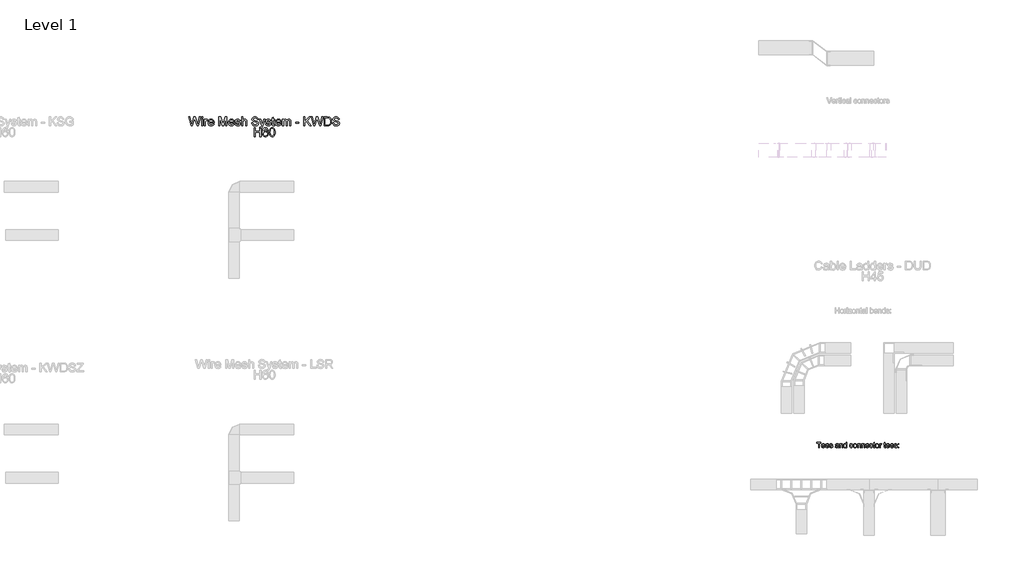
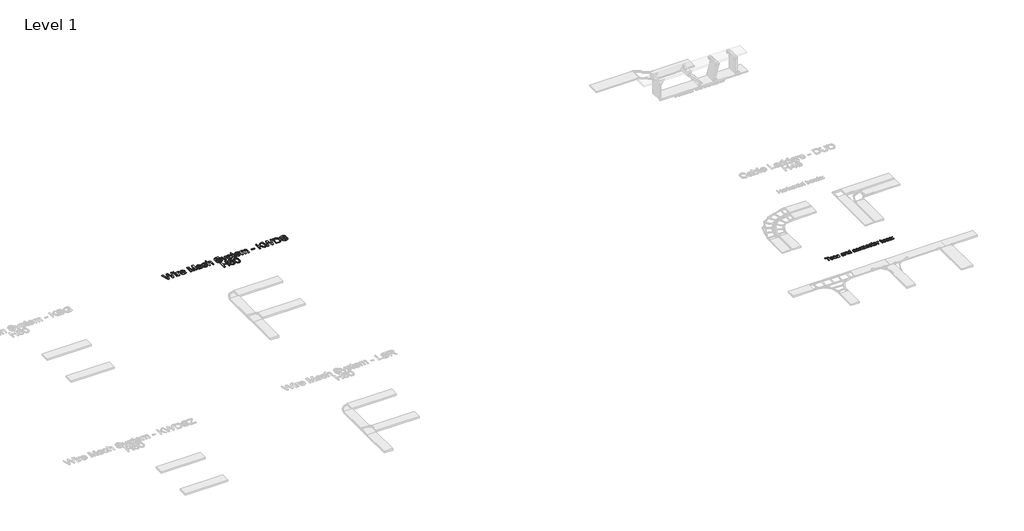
# One storey, part 51 of 106: 2 proxies.
"""IFC4 building model written with IfcOpenShell, lengths in millimetres."""

from ifc_helpers import new_model, si_unit, origin, origin_with_axes, place, context, project, spatial, polyline, outline, extrude, element, save

model = new_model("IFC4")

# Units and contexts
model_context = context("Model", 3, world=origin())
ifc_project = project(units=[si_unit("LENGTHUNIT", "METRE", prefix="MILLI")], contexts=[model_context])

# Site, building, storey
site = spatial("IfcSite", under=ifc_project)
building = spatial("IfcBuilding", under=site)
storey = spatial("IfcBuildingStorey", under=building, Name="Level 1", Elevation=0.0)

# Proxies
placement = place(None, origin())
element("IfcBuildingElementProxy", 1, Name="150mm Arial 2", ObjectType="150mm Arial 2", at=placement, inside=storey, context=model_context, shape_type="SweptSolid", body=[
    extrude(outline(polyline([(28893.3276619, 34847.8476348), (28893.3276619, 34979.6965419), (28843.8843218, 34979.6965419), (28843.8843218, 34998.5321), (28961.6065602, 34998.5321), (28961.6065602, 34979.6965419), (28912.1632201, 34979.6965419), (28912.1632201, 34847.8476348), (28893.3276619, 34847.8476348)])), origin_with_axes(), (0.0, 0.0, 1.0), 15.0),
    extrude(outline(polyline([(29057.9180666, 34880.8098615), (29076.3857427, 34878.4554168), (29069.7316771, 34864.5402803), (29059.1136831, 34854.1384169), (29044.7708838, 34847.6544967), (29026.9424026, 34845.49319), (29004.8418917, 34849.2225937), (28987.8365465, 34860.4108049), (28976.9932247, 34878.3312566), (28973.3787841, 34902.2573819), (28977.0300129, 34926.988249), (28987.9836993, 34945.4835163), (29004.7591183, 34957.0166168), (29025.8755448, 34960.8609837), (29046.3343822, 34957.0258139), (29062.6821384, 34945.5203045), (29073.4013, 34927.0618254), (29076.9743539, 34902.3677465), (29076.8639893, 34897.2909749), (28992.2143422, 34897.2909749), (28995.4746964, 34883.1918975), (29003.048467, 34872.8268223), (29013.9791608, 34866.4532667), (29027.3102846, 34864.3287482), (29045.7779607, 34868.2650855), (29057.9180666, 34880.8098615)]), holes=[polyline([(28992.2143422, 34916.1265331), (29058.1387958, 34916.1265331), (29055.5912129, 34926.0777411), (29050.5972149, 34933.1962577), (29039.6159373, 34939.8181336), (29025.8019684, 34942.0254255), (29013.105441, 34940.2641905), (29002.6070086, 34934.9804853), (28995.3091495, 34926.7445272), (28992.2143422, 34916.1265331)])]), origin_with_axes(), (0.0, 0.0, 1.0), 15.0),
    extrude(outline(polyline([(29173.2858603, 34880.8098615), (29191.7535364, 34878.4554168), (29185.0994708, 34864.5402803), (29174.4814767, 34854.1384169), (29160.1386775, 34847.6544967), (29142.3101963, 34845.49319), (29120.2096854, 34849.2225937), (29103.2043402, 34860.4108049), (29092.3610184, 34878.3312566), (29088.7465778, 34902.2573819), (29092.3978066, 34926.988249), (29103.351493, 34945.4835163), (29120.126912, 34957.0166168), (29141.2433385, 34960.8609837), (29161.7021759, 34957.0258139), (29178.0499321, 34945.5203045), (29188.7690937, 34927.0618254), (29192.3421476, 34902.3677465), (29192.231783, 34897.2909749), (29107.5821359, 34897.2909749), (29110.8424901, 34883.1918975), (29118.4162607, 34872.8268223), (29129.3469545, 34866.4532667), (29142.6780783, 34864.3287482), (29161.1457544, 34868.2650855), (29173.2858603, 34880.8098615)]), holes=[polyline([(29107.5821359, 34916.1265331), (29173.5065895, 34916.1265331), (29170.9590066, 34926.0777411), (29165.9650086, 34933.1962577), (29154.983731, 34939.8181336), (29141.1697621, 34942.0254255), (29128.4732347, 34940.2641905), (29117.9748023, 34934.9804853), (29110.6769432, 34926.7445272), (29107.5821359, 34916.1265331)])]), origin_with_axes(), (0.0, 0.0, 1.0), 15.0),
    extrude(outline(polyline([(29204.1143715, 34880.8098615), (29222.9499296, 34883.1643063), (29225.9205767, 34875.1076906), (29231.6687329, 34869.1847905), (29251.6447252, 34864.3287482), (29270.8481654, 34868.7801203), (29277.1021593, 34879.227969), (29275.5294638, 34884.028829), (29270.8113772, 34887.6892549), (29251.423996, 34893.060332), (29223.0602942, 34902.275776), (29210.6810651, 34913.0363243), (29206.4688162, 34928.2298507), (29209.8533306, 34942.2645488), (29219.0871687, 34952.988309), (29231.0617276, 34958.5617212), (29247.2669295, 34960.8609837), (29270.1859778, 34957.1637696), (29284.7541048, 34947.1573794), (29291.2288279, 34930.2532017), (29272.3932698, 34927.8987569), (29265.3115413, 34938.2914233), (29248.7384575, 34942.0254255), (29230.7122397, 34938.4569702), (29225.3043744, 34930.1428371), (29227.5484545, 34924.6613954), (29234.5750007, 34920.5043288), (29250.7985966, 34916.4944151), (29278.4449286, 34907.628459), (29291.2840102, 34897.5852805), (29295.9377174, 34881.2145317), (29290.4746698, 34863.188314), (29274.7109263, 34850.1101091), (29251.3872078, 34845.49319), (29232.3952998, 34847.7188761), (29218.5353457, 34854.3959343), (29209.2831135, 34865.4507882), (29204.1143715, 34880.8098615)])), origin_with_axes(), (0.0, 0.0, 1.0), 15.0),
    extrude(outline(polyline([(29446.6221827, 34861.9743034), (29428.3568416, 34849.2087982), (29408.1785142, 34845.49319), (29392.4377633, 34847.7280731), (29380.8264878, 34854.4327225), (29373.6665845, 34864.6138567), (29371.2799501, 34877.2781944), (29374.8851936, 34892.1774152), (29384.358155, 34902.9931459), (29397.5467245, 34909.1735634), (29413.8438969, 34912.0062547), (29446.5118181, 34918.4809779), (29446.6221827, 34922.6748326), (29445.3253986, 34931.0809362), (29441.4350465, 34936.580772), (29432.7346374, 34940.6642622), (29420.6129256, 34942.0254255), (29401.5566383, 34938.4017879), (29392.469953, 34925.5443122), (29373.6343948, 34927.8987569), (29381.782981, 34946.2928567), (29398.190518, 34957.0717991), (29423.0409468, 34960.8609837), (29445.8680246, 34957.5132575), (29458.7622885, 34949.107154), (29464.5380358, 34936.3232546), (29465.4577408, 34919.8421412), (29465.4577408, 34896.4080581), (29466.414234, 34863.6849547), (29470.1666304, 34847.8476348), (29451.3310722, 34847.8476348), (29446.6221827, 34861.9743034)]), holes=[polyline([(29446.6221827, 34899.6454197), (29416.2351299, 34893.8696724), (29400.029928, 34890.8162518), (29392.6906822, 34885.8498449), (29390.1155082, 34878.6025696), (29395.7257086, 34868.4122383), (29412.1884279, 34864.3287482), (29431.2447153, 34868.8353026), (29443.5319739, 34879.7430038), (29446.5118181, 34894.3111308), (29446.6221827, 34899.6454197)])]), origin_with_axes(), (0.0, 0.0, 1.0), 15.0),
    extrude(outline(polyline([(29491.3566333, 34847.8476348), (29491.3566333, 34958.5065389), (29510.1921914, 34958.5065389), (29510.1921914, 34943.0554951), (29524.5947715, 34956.4096116), (29544.2580642, 34960.8609837), (29562.0451587, 34957.2741342), (29574.1852645, 34947.8563552), (29579.8322531, 34934.0055981), (29580.8255345, 34915.7954393), (29580.8255345, 34847.8476348), (29561.9899764, 34847.8476348), (29561.9899764, 34913.2570535), (29559.8194726, 34929.9221079), (29552.149133, 34938.7328817), (29539.2180809, 34942.0254255), (29528.1862195, 34940.1768185), (29518.782236, 34934.6309974), (29512.3397026, 34923.9164343), (29510.1921914, 34906.5616012), (29510.1921914, 34847.8476348), (29491.3566333, 34847.8476348)])), origin_with_axes(), (0.0, 0.0, 1.0), 15.0),
    extrude(outline(polyline([(29675.0033253, 34847.8476348), (29675.0033253, 34865.6163351), (29662.5413227, 34850.5239763), (29645.3152483, 34845.49319), (29633.1383542, 34847.3142059), (29621.9915298, 34852.7772535), (29612.5553566, 34861.5006553), (29605.5104164, 34873.1027337), (29601.1234236, 34887.1144392), (29599.6610927, 34903.0667223), (29605.0505639, 34933.0491049), (29611.7828044, 34944.9408904), (29621.2005835, 34953.6872848), (29632.5911298, 34959.067559), (29645.2416719, 34960.8609837), (29662.605702, 34955.7290299), (29675.0033253, 34942.3933075), (29675.0033253, 34998.5321), (29693.8388834, 34998.5321), (29693.8388834, 34847.8476348), (29675.0033253, 34847.8476348)]), holes=[polyline([(29618.4966508, 34903.1402987), (29620.6211693, 34886.1027638), (29626.9947249, 34873.9856505), (29636.2561541, 34866.7429738), (29647.0442936, 34864.3287482), (29657.8278346, 34866.6326092), (29666.8547391, 34873.5441921), (29672.9661787, 34885.1922558), (29675.0033253, 34901.7055589), (29672.9293905, 34919.7593678), (29666.7075863, 34932.2765527), (29657.4507556, 34939.5882073), (29646.2717415, 34942.0254255), (29635.3732373, 34939.6847764), (29626.4429019, 34932.6628288), (29620.4832136, 34920.6008979), (29618.4966508, 34903.1402987)])]), origin_with_axes(), (0.0, 0.0, 1.0), 15.0),
    extrude(outline(polyline([(29851.586683, 34887.8731959), (29870.4222411, 34885.5187511), (29865.1707256, 34868.7663247), (29855.3022911, 34856.1065856), (29841.7458396, 34848.1465389), (29825.4302731, 34845.49319), (29805.3944999, 34849.1950026), (29789.7273255, 34860.3004403), (29779.6151691, 34878.3220596), (29776.2444503, 34902.7724167), (29777.6837887, 34919.5340401), (29782.0018036, 34934.0607803), (29789.267473, 34945.7916175), (29799.5497747, 34954.1655314), (29811.850829, 34959.1871206), (29825.1727557, 34960.8609837), (29841.0882505, 34958.5617212), (29853.812369, 34951.6639338), (29862.940441, 34940.5355035), (29868.0677963, 34925.5443122), (29849.2322382, 34923.1898674), (29840.4950408, 34937.2981419), (29825.3199085, 34942.0254255), (29813.147613, 34939.6985719), (29803.4861121, 34932.7180111), (29797.1815344, 34920.7066639), (29795.0800085, 34903.2874515), (29797.1355492, 34885.6337142), (29803.3021711, 34873.5809803), (29812.788928, 34866.6418062), (29824.8048737, 34864.3287482), (29834.5583451, 34865.772685), (29842.55518, 34870.1044955), (29848.372314, 34877.4345442), (29851.586683, 34887.8731959)])), origin_with_axes(), (0.0, 0.0, 1.0), 15.0),
    extrude(outline(polyline([(29882.194465, 34903.1770869), (29886.2687581, 34929.8577286), (29898.4916373, 34948.6105133), (29913.5931932, 34957.7983661), (29931.6745933, 34960.8609837), (29951.4620461, 34957.13158), (29967.2671763, 34945.9433688), (29977.627653, 34928.179267), (29981.0811453, 34904.7221912), (29979.554435, 34885.693495), (29974.9743041, 34871.2081415), (29967.47411, 34860.3602211), (29957.1872097, 34852.2438246), (29944.9689289, 34847.1808487), (29931.6745933, 34845.49319), (29911.6480172, 34849.2087982), (29895.8612811, 34860.3556226), (29885.611169, 34878.492205), (29882.194465, 34903.1770869)]), holes=[polyline([(29901.0300231, 34903.2138751), (29903.2097239, 34886.1671431), (29909.7488264, 34874.0224387), (29919.5896698, 34866.7521708), (29931.6745933, 34864.3287482), (29943.7043346, 34866.7659664), (29953.5267838, 34874.077621), (29960.0658863, 34886.3832738), (29962.2455871, 34903.8024862), (29960.0520907, 34920.3525775), (29953.4716015, 34932.331735), (29943.6353567, 34939.6020029), (29931.6745933, 34942.0254255), (29919.5896698, 34939.6112), (29909.7488264, 34932.3685232), (29903.2097239, 34920.25141), (29901.0300231, 34903.2138751)])]), origin_with_axes(), (0.0, 0.0, 1.0), 15.0),
    extrude(outline(polyline([(30002.2711482, 34847.8476348), (30002.2711482, 34958.5065389), (30021.1067063, 34958.5065389), (30021.1067063, 34943.0554951), (30035.5092865, 34956.4096116), (30055.1725791, 34960.8609837), (30072.9596736, 34957.2741342), (30085.0997794, 34947.8563552), (30090.746768, 34934.0055981), (30091.7400494, 34915.7954393), (30091.7400494, 34847.8476348), (30072.9044913, 34847.8476348), (30072.9044913, 34913.2570535), (30070.7339875, 34929.9221079), (30063.0636479, 34938.7328817), (30050.1325958, 34942.0254255), (30039.1007344, 34940.1768185), (30029.6967509, 34934.6309974), (30023.2542175, 34923.9164343), (30021.1067063, 34906.5616012), (30021.1067063, 34847.8476348), (30002.2711482, 34847.8476348)])), origin_with_axes(), (0.0, 0.0, 1.0), 15.0),
    extrude(outline(polyline([(30117.6389419, 34847.8476348), (30117.6389419, 34958.5065389), (30136.4745, 34958.5065389), (30136.4745, 34943.0554951), (30150.8770801, 34956.4096116), (30170.5403728, 34960.8609837), (30188.3274672, 34957.2741342), (30200.4675731, 34947.8563552), (30206.1145617, 34934.0055981), (30207.1078431, 34915.7954393), (30207.1078431, 34847.8476348), (30188.2722849, 34847.8476348), (30188.2722849, 34913.2570535), (30186.1017812, 34929.9221079), (30178.4314416, 34938.7328817), (30165.5003894, 34942.0254255), (30154.4685281, 34940.1768185), (30145.0645446, 34934.6309974), (30138.6220112, 34923.9164343), (30136.4745, 34906.5616012), (30136.4745, 34847.8476348), (30117.6389419, 34847.8476348)])), origin_with_axes(), (0.0, 0.0, 1.0), 15.0),
    extrude(outline(polyline([(30310.4826837, 34880.8098615), (30328.9503599, 34878.4554168), (30322.2962943, 34864.5402803), (30311.6783002, 34854.1384169), (30297.3355009, 34847.6544967), (30279.5070198, 34845.49319), (30257.4065089, 34849.2225937), (30240.4011637, 34860.4108049), (30229.5578419, 34878.3312566), (30225.9434013, 34902.2573819), (30229.5946301, 34926.988249), (30240.5483165, 34945.4835163), (30257.3237354, 34957.0166168), (30278.440162, 34960.8609837), (30298.8989994, 34957.0258139), (30315.2467556, 34945.5203045), (30325.9659172, 34927.0618254), (30329.5389711, 34902.3677465), (30329.4286065, 34897.2909749), (30244.7789594, 34897.2909749), (30248.0393136, 34883.1918975), (30255.6130842, 34872.8268223), (30266.5437779, 34866.4532667), (30279.8749017, 34864.3287482), (30298.3425779, 34868.2650855), (30310.4826837, 34880.8098615)]), holes=[polyline([(30244.7789594, 34916.1265331), (30310.7034129, 34916.1265331), (30308.1558301, 34926.0777411), (30303.161832, 34933.1962577), (30292.1805545, 34939.8181336), (30278.3665856, 34942.0254255), (30265.6700582, 34940.2641905), (30255.1716258, 34934.9804853), (30247.8737667, 34926.7445272), (30244.7789594, 34916.1265331)])]), origin_with_axes(), (0.0, 0.0, 1.0), 15.0),
    extrude(outline(polyline([(30419.0078723, 34887.8731959), (30437.8434305, 34885.5187511), (30432.591915, 34868.7663247), (30422.7234805, 34856.1065856), (30409.167029, 34848.1465389), (30392.8514625, 34845.49319), (30372.8156893, 34849.1950026), (30357.1485148, 34860.3004403), (30347.0363585, 34878.3220596), (30343.6656397, 34902.7724167), (30345.104978, 34919.5340401), (30349.4229929, 34934.0607803), (30356.6886623, 34945.7916175), (30366.9709641, 34954.1655314), (30379.2720183, 34959.1871206), (30392.5939451, 34960.8609837), (30408.5094399, 34958.5617212), (30421.2335584, 34951.6639338), (30430.3616304, 34940.5355035), (30435.4889857, 34925.5443122), (30416.6534276, 34923.1898674), (30407.9162302, 34937.2981419), (30392.7410979, 34942.0254255), (30380.5688024, 34939.6985719), (30370.9073015, 34932.7180111), (30364.6027238, 34920.7066639), (30362.5011979, 34903.2874515), (30364.5567385, 34885.6337142), (30370.7233605, 34873.5809803), (30380.2101174, 34866.6418062), (30392.2260631, 34864.3287482), (30401.9795345, 34865.772685), (30409.9763693, 34870.1044955), (30415.7935034, 34877.4345442), (30419.0078723, 34887.8731959)])), origin_with_axes(), (0.0, 0.0, 1.0), 15.0),
    extrude(outline(polyline([(30494.3501049, 34863.556196), (30496.7045497, 34847.2958118), (30482.6146693, 34845.49319), (30466.8325317, 34848.620187), (30458.959857, 34856.8239555), (30456.6789886, 34878.1978994), (30456.6789886, 34939.6709808), (30442.55232, 34939.6709808), (30442.55232, 34958.5065389), (30456.6789886, 34958.5065389), (30456.6789886, 34985.3987128), (30475.5145468, 34996.4719608), (30475.5145468, 34958.5065389), (30494.3501049, 34958.5065389), (30494.3501049, 34939.6709808), (30475.5145468, 34939.6709808), (30475.5145468, 34878.7497224), (30476.5078282, 34869.0376377), (30479.7267956, 34865.597941), (30486.1463364, 34864.3287482), (30494.3501049, 34863.556196)])), origin_with_axes(), (0.0, 0.0, 1.0), 15.0),
    extrude(outline(polyline([(30508.4767735, 34903.1770869), (30512.5510666, 34929.8577286), (30524.7739459, 34948.6105133), (30539.8755018, 34957.7983661), (30557.9569019, 34960.8609837), (30577.7443547, 34957.13158), (30593.5494849, 34945.9433688), (30603.9099616, 34928.179267), (30607.3634539, 34904.7221912), (30605.8367436, 34885.693495), (30601.2566127, 34871.2081415), (30593.7564186, 34860.3602211), (30583.4695183, 34852.2438246), (30571.2512375, 34847.1808487), (30557.9569019, 34845.49319), (30537.9303258, 34849.2087982), (30522.1435897, 34860.3556226), (30511.8934776, 34878.492205), (30508.4767735, 34903.1770869)]), holes=[polyline([(30527.3123317, 34903.2138751), (30529.4920325, 34886.1671431), (30536.031135, 34874.0224387), (30545.8719784, 34866.7521708), (30557.9569019, 34864.3287482), (30569.9866431, 34866.7659664), (30579.8090924, 34874.077621), (30586.3481949, 34886.3832738), (30588.5278957, 34903.8024862), (30586.3343993, 34920.3525775), (30579.7539101, 34932.331735), (30569.9176653, 34939.6020029), (30557.9569019, 34942.0254255), (30545.8719784, 34939.6112), (30536.031135, 34932.3685232), (30529.4920325, 34920.25141), (30527.3123317, 34903.2138751)])]), origin_with_axes(), (0.0, 0.0, 1.0), 15.0),
    extrude(outline(polyline([(30628.5534568, 34847.8476348), (30628.5534568, 34958.5065389), (30645.0345702, 34958.5065389), (30645.0345702, 34942.1357901), (30656.7332176, 34957.2189519), (30668.5054415, 34960.8609837), (30687.414576, 34955.0484482), (30681.1237939, 34938.1626646), (30667.8800421, 34942.0254255), (30657.2298583, 34938.3098174), (30650.4424355, 34928.0091215), (30647.3890149, 34906.0097782), (30647.3890149, 34847.8476348), (30628.5534568, 34847.8476348)])), origin_with_axes(), (0.0, 0.0, 1.0), 15.0),
    extrude(outline(polyline([(30798.0734802, 34863.556196), (30800.4279249, 34847.2958118), (30786.3380445, 34845.49319), (30770.5559069, 34848.620187), (30762.6832322, 34856.8239555), (30760.4023638, 34878.1978994), (30760.4023638, 34939.6709808), (30746.2756952, 34939.6709808), (30746.2756952, 34958.5065389), (30760.4023638, 34958.5065389), (30760.4023638, 34985.3987128), (30779.237922, 34996.4719608), (30779.237922, 34958.5065389), (30798.0734802, 34958.5065389), (30798.0734802, 34939.6709808), (30779.237922, 34939.6709808), (30779.237922, 34878.7497224), (30780.2312034, 34869.0376377), (30783.4501708, 34865.597941), (30789.8697117, 34864.3287482), (30798.0734802, 34863.556196)])), origin_with_axes(), (0.0, 0.0, 1.0), 15.0),
    extrude(outline(polyline([(30894.3849865, 34880.8098615), (30912.8526626, 34878.4554168), (30906.1985971, 34864.5402803), (30895.580603, 34854.1384169), (30881.2378037, 34847.6544967), (30863.4093225, 34845.49319), (30841.3088116, 34849.2225937), (30824.3034664, 34860.4108049), (30813.4601446, 34878.3312566), (30809.845704, 34902.2573819), (30813.4969328, 34926.988249), (30824.4506192, 34945.4835163), (30841.2260382, 34957.0166168), (30862.3424647, 34960.8609837), (30882.8013022, 34957.0258139), (30899.1490583, 34945.5203045), (30909.86822, 34927.0618254), (30913.4412738, 34902.3677465), (30913.3309092, 34897.2909749), (30828.6812622, 34897.2909749), (30831.9416163, 34883.1918975), (30839.5153869, 34872.8268223), (30850.4460807, 34866.4532667), (30863.7772045, 34864.3287482), (30882.2448806, 34868.2650855), (30894.3849865, 34880.8098615)]), holes=[polyline([(30828.6812622, 34916.1265331), (30894.6057157, 34916.1265331), (30892.0581329, 34926.0777411), (30887.0641348, 34933.1962577), (30876.0828572, 34939.8181336), (30862.2688883, 34942.0254255), (30849.572361, 34940.2641905), (30839.0739285, 34934.9804853), (30831.7760694, 34926.7445272), (30828.6812622, 34916.1265331)])]), origin_with_axes(), (0.0, 0.0, 1.0), 15.0),
    extrude(outline(polyline([(31009.7527802, 34880.8098615), (31028.2204563, 34878.4554168), (31021.5663907, 34864.5402803), (31010.9483967, 34854.1384169), (30996.6055974, 34847.6544967), (30978.7771162, 34845.49319), (30956.6766053, 34849.2225937), (30939.6712601, 34860.4108049), (30928.8279383, 34878.3312566), (30925.2134977, 34902.2573819), (30928.8647265, 34926.988249), (30939.8184129, 34945.4835163), (30956.5938319, 34957.0166168), (30977.7102584, 34960.8609837), (30998.1690959, 34957.0258139), (31014.516852, 34945.5203045), (31025.2360136, 34927.0618254), (31028.8090675, 34902.3677465), (31028.6987029, 34897.2909749), (30944.0490558, 34897.2909749), (30947.30941, 34883.1918975), (30954.8831806, 34872.8268223), (30965.8138744, 34866.4532667), (30979.1449982, 34864.3287482), (30997.6126743, 34868.2650855), (31009.7527802, 34880.8098615)]), holes=[polyline([(30944.0490558, 34916.1265331), (31009.9735094, 34916.1265331), (31007.4259266, 34926.0777411), (31002.4319285, 34933.1962577), (30991.4506509, 34939.8181336), (30977.636682, 34942.0254255), (30964.9401546, 34940.2641905), (30954.4417222, 34934.9804853), (30947.1438631, 34926.7445272), (30944.0490558, 34916.1265331)])]), origin_with_axes(), (0.0, 0.0, 1.0), 15.0),
    extrude(outline(polyline([(31040.5812914, 34880.8098615), (31059.4168495, 34883.1643063), (31062.3874966, 34875.1076906), (31068.1356528, 34869.1847905), (31088.1116452, 34864.3287482), (31107.3150853, 34868.7801203), (31113.5690792, 34879.227969), (31111.9963837, 34884.028829), (31107.2782971, 34887.6892549), (31087.890916, 34893.060332), (31059.5272141, 34902.275776), (31047.147985, 34913.0363243), (31042.9357361, 34928.2298507), (31046.3202505, 34942.2645488), (31055.5540886, 34952.988309), (31067.5286475, 34958.5617212), (31083.7338494, 34960.8609837), (31106.6528977, 34957.1637696), (31121.2210247, 34947.1573794), (31127.6957478, 34930.2532017), (31108.8601897, 34927.8987569), (31101.7784613, 34938.2914233), (31085.2053774, 34942.0254255), (31067.1791596, 34938.4569702), (31061.7712943, 34930.1428371), (31064.0153745, 34924.6613954), (31071.0419206, 34920.5043288), (31087.2655166, 34916.4944151), (31114.9118485, 34907.628459), (31127.7509301, 34897.5852805), (31132.4046374, 34881.2145317), (31126.9415897, 34863.188314), (31111.1778462, 34850.1101091), (31087.8541278, 34845.49319), (31068.8622198, 34847.7188761), (31055.0022656, 34854.3959343), (31045.7500334, 34865.4507882), (31040.5812914, 34880.8098615)])), origin_with_axes(), (0.0, 0.0, 1.0), 15.0),
    extrude(outline(polyline([(31158.3035298, 34939.6709808), (31158.3035298, 34958.5065389), (31177.139088, 34958.5065389), (31177.139088, 34939.6709808), (31158.3035298, 34939.6709808)])), origin_with_axes(), (0.0, 0.0, 1.0), 15.0),
    extrude(outline(polyline([(31158.3035298, 34847.8476348), (31158.3035298, 34866.6831929), (31177.139088, 34866.6831929), (31177.139088, 34847.8476348), (31158.3035298, 34847.8476348)])), origin_with_axes(), (0.0, 0.0, 1.0), 15.0),
])
element("IfcBuildingElementProxy", 2, Name="250mm Arial 3", ObjectType="250mm Arial 3", at=placement, inside=storey, context=model_context, shape_type="SweptSolid", body=[
    extrude(outline(polyline([(11041.5946538, 44003.1379564), (10973.107289, 44254.2787318), (11005.4809046, 44254.2787318), (11045.2121601, 44089.2223433), (11057.4748933, 44038.2706869), (11070.5960178, 44083.3362313), (11120.3827145, 44254.2787318), (11167.0424142, 44254.2787318), (11203.217477, 44130.3638131), (11218.7145061, 44084.3785637), (11230.1341763, 44038.2706869), (11242.0290275, 44087.7508153), (11282.128165, 44254.2787318), (11314.5017806, 44254.2787318), (11245.9531021, 44003.1379564), (11212.4145269, 44003.1379564), (11152.204507, 44196.8891405), (11143.8045348, 44223.9284672), (11134.3622303, 44191.3709106), (11079.4864993, 44003.1379564), (11041.5946538, 44003.1379564)])), origin_with_axes(), (0.0, 0.0, 1.0), 15.0),
    extrude(outline(polyline([(11341.9703029, 44222.8861348), (11341.9703029, 44254.2787318), (11373.3628998, 44254.2787318), (11373.3628998, 44222.8861348), (11341.9703029, 44222.8861348)])), origin_with_axes(), (0.0, 0.0, 1.0), 15.0),
    extrude(outline(polyline([(11341.9703029, 44003.1379564), (11341.9703029, 44187.5694633), (11373.3628998, 44187.5694633), (11373.3628998, 44003.1379564), (11341.9703029, 44003.1379564)])), origin_with_axes(), (0.0, 0.0, 1.0), 15.0),
    extrude(outline(polyline([(11420.4517952, 44003.1379564), (11420.4517952, 44187.5694633), (11447.9203175, 44187.5694633), (11447.9203175, 44160.284882), (11458.0677292, 44176.1038078), (11467.4180632, 44185.423485), (11487.0384363, 44191.4935379), (11502.6734211, 44189.0716481), (11518.5536606, 44181.8059787), (11508.0690237, 44153.6630061), (11485.996104, 44160.100941), (11476.6227773, 44158.5527709), (11468.2457977, 44153.9082608), (11456.9334264, 44136.7404343), (11451.8443921, 44100.0748621), (11451.8443921, 44003.1379564), (11420.4517952, 44003.1379564)])), origin_with_axes(), (0.0, 0.0, 1.0), 15.0),
    extrude(outline(polyline([(11667.3006139, 44058.075001), (11698.0800742, 44054.1509264), (11686.9899649, 44030.9590323), (11669.2933081, 44013.6225933), (11645.3886426, 44002.8160597), (11615.6745073, 43999.2138818), (11596.1959221, 44000.7678), (11578.8403225, 44005.4295547), (11563.6077087, 44013.1991458), (11550.4980805, 44024.0765733), (11539.9559621, 44037.759101), (11532.4258775, 44053.9439928), (11527.9078267, 44072.6312485), (11526.4018098, 44093.8208682), (11527.9231551, 44115.7290074), (11532.4871911, 44135.0389801), (11540.0939178, 44151.7507861), (11550.7433351, 44165.8644256), (11563.8184744, 44177.0771622), (11578.7023668, 44185.0862598), (11595.3950123, 44189.8917184), (11613.896411, 44191.4935379), (11631.8019175, 44189.8955505), (11647.9944734, 44185.1015883), (11662.4740788, 44177.1116512), (11675.2407337, 44165.9257393), (11685.6621408, 44151.8427566), (11693.1060031, 44135.1616074), (11697.5723204, 44115.8822916), (11699.0610929, 44094.0048092), (11698.8771519, 44085.5435233), (11557.7944067, 44085.5435233), (11563.2283304, 44062.0450609), (11575.8512813, 44044.7699355), (11594.0691043, 44034.1473429), (11616.2876439, 44030.6064787), (11632.9956179, 44032.2466193), (11647.0671042, 44037.1670409), (11658.5021029, 44045.6743121), (11667.3006139, 44058.075001)]), holes=[polyline([(11557.7944067, 44116.9361202), (11667.6684959, 44116.9361202), (11663.4225246, 44133.5214669), (11655.0991944, 44145.3856612), (11636.7970652, 44156.4221211), (11613.7737836, 44160.100941), (11592.6129047, 44157.1655493), (11575.1155173, 44148.359374), (11562.9524189, 44134.632777), (11557.7944067, 44116.9361202)])]), origin_with_axes(), (0.0, 0.0, 1.0), 15.0),
    extrude(outline(polyline([(11832.4796298, 44003.1379564), (11832.4796298, 44254.2787318), (11886.4969694, 44254.2787318), (11937.8778214, 44077.2661784), (11948.2398309, 44040.2940379), (11959.4602318, 44080.3318617), (12009.9826925, 44254.2787318), (12064.0000321, 44254.2787318), (12064.0000321, 44003.1379564), (12032.6074352, 44003.1379564), (12032.6074352, 44222.8861348), (11969.515673, 44003.1379564), (11926.9639889, 44003.1379564), (11863.8722267, 44222.8861348), (11863.8722267, 44003.1379564), (11832.4796298, 44003.1379564)])), origin_with_axes(), (0.0, 0.0, 1.0), 15.0),
    extrude(outline(polyline([(12244.1395824, 44058.075001), (12274.9190426, 44054.1509264), (12263.8289333, 44030.9590323), (12246.1322765, 44013.6225933), (12222.227611, 44002.8160597), (12192.5134757, 43999.2138818), (12173.0348905, 44000.7678), (12155.679291, 44005.4295547), (12140.4466771, 44013.1991458), (12127.3370489, 44024.0765733), (12116.7949305, 44037.759101), (12109.2648459, 44053.9439928), (12104.7467951, 44072.6312485), (12103.2407782, 44093.8208682), (12104.7621236, 44115.7290074), (12109.3261596, 44135.0389801), (12116.9328862, 44151.7507861), (12127.5823036, 44165.8644256), (12140.6574428, 44177.0771622), (12155.5413352, 44185.0862598), (12172.2339807, 44189.8917184), (12190.7353794, 44191.4935379), (12208.6408859, 44189.8955505), (12224.8334418, 44185.1015883), (12239.3130472, 44177.1116512), (12252.0797021, 44165.9257393), (12262.5011093, 44151.8427566), (12269.9449715, 44135.1616074), (12274.4112889, 44115.8822916), (12275.9000613, 44094.0048092), (12275.7161203, 44085.5435233), (12134.6333752, 44085.5435233), (12140.0672988, 44062.0450609), (12152.6902497, 44044.7699355), (12170.9080727, 44034.1473429), (12193.1266124, 44030.6064787), (12209.8345863, 44032.2466193), (12223.9060726, 44037.1670409), (12235.3410713, 44045.6743121), (12244.1395824, 44058.075001)]), holes=[polyline([(12134.6333752, 44116.9361202), (12244.5074644, 44116.9361202), (12240.261493, 44133.5214669), (12231.9381629, 44145.3856612), (12213.6360336, 44156.4221211), (12190.6127521, 44160.100941), (12169.4518732, 44157.1655493), (12151.9544858, 44148.359374), (12139.7913873, 44134.632777), (12134.6333752, 44116.9361202)])]), origin_with_axes(), (0.0, 0.0, 1.0), 15.0),
    extrude(outline(polyline([(12295.5204344, 44058.075001), (12326.9130313, 44061.9990756), (12331.8641098, 44048.5713828), (12341.4443701, 44038.6998826), (12355.7151258, 44032.6298297), (12374.7376907, 44030.6064787), (12393.5303293, 44032.4612171), (12406.7434243, 44038.0254323), (12414.5609166, 44046.0881793), (12417.1667474, 44055.4385134), (12414.5455882, 44063.4399468), (12406.6821106, 44069.5406565), (12374.3698087, 44078.4924517), (12327.0969723, 44093.851525), (12315.1331432, 44101.5693827), (12306.4649237, 44111.7857723), (12301.1996127, 44123.8492361), (12299.444509, 44137.1083163), (12305.0853663, 44160.4994798), (12320.4750964, 44178.3724134), (12340.4326946, 44187.6614338), (12367.4413644, 44191.4935379), (12387.8741436, 44189.9530321), (12405.6397783, 44185.3315145), (12419.9258624, 44178.0811735), (12429.9199899, 44168.6541974), (12436.5418659, 44156.3531432), (12440.7111951, 44140.4805679), (12409.3185982, 44136.5564933), (12405.3562026, 44146.4356577), (12397.5157175, 44153.8776039), (12385.7205011, 44158.5451067), (12369.8939111, 44160.100941), (12351.8676933, 44158.6140846), (12339.8502148, 44154.1535154), (12333.0903831, 44147.7155805), (12330.8371059, 44140.2966269), (12334.5772395, 44131.1608907), (12346.2881497, 44124.2324465), (12373.3274764, 44117.5492569), (12419.4046963, 44102.7726634), (12431.5754589, 44095.7062634), (12440.8031656, 44086.0340326), (12446.6202997, 44073.7253142), (12448.5593444, 44058.7494513), (12446.2830745, 44043.2677507), (12439.454265, 44028.7057551), (12428.3334988, 44016.2054314), (12413.1813592, 44006.9087468), (12394.8792299, 44001.137598), (12374.308495, 43999.2138818), (12342.655315, 44002.9233586), (12319.5553914, 44014.0517889), (12304.1350044, 44032.4765455), (12295.5204344, 44058.075001)])), origin_with_axes(), (0.0, 0.0, 1.0), 15.0),
    extrude(outline(polyline([(12483.8760159, 44003.1379564), (12483.8760159, 44254.2787318), (12515.2686128, 44254.2787318), (12515.2686128, 44161.940351), (12526.7994141, 44174.8698703), (12539.7480939, 44184.1052412), (12554.1146523, 44189.6464637), (12569.8990891, 44191.4935379), (12588.8603403, 44189.4778512), (12605.154447, 44183.4307909), (12617.9843316, 44173.8275379), (12626.5529164, 44161.1432733), (12631.3813676, 44143.7148638), (12632.9908513, 44119.8791762), (12632.9908513, 44003.1379564), (12601.5982544, 44003.1379564), (12601.5982544, 44116.6295519), (12599.0997225, 44136.2805818), (12591.6041268, 44149.7389315), (12579.5253347, 44157.5104386), (12563.2772132, 44160.100941), (12550.0104687, 44158.3535015), (12537.5561304, 44153.1111831), (12527.2401061, 44144.8798235), (12520.3883039, 44134.1652603), (12516.5485356, 44119.9251614), (12515.2686128, 44101.1171944), (12515.2686128, 44003.1379564), (12483.8760159, 44003.1379564)])), origin_with_axes(), (0.0, 0.0, 1.0), 15.0),
    extrude(outline(polyline([(12766.4093882, 44089.4675979), (12797.8019851, 44089.4675979), (12801.404163, 44072.0468526), (12807.91874, 44058.0443442), (12818.0814801, 44046.9312422), (12832.6281473, 44038.1787164), (12850.4091104, 44032.4995381), (12870.2747382, 44030.6064787), (12887.7644614, 44032.0396856), (12903.0775494, 44036.3393065), (12915.4859025, 44043.1451234), (12924.261421, 44052.0969186), (12929.4807468, 44062.3746218), (12931.220522, 44073.1581628), (12926.0088604, 44092.7478791), (12918.0687407, 44100.4963936), (12904.6717047, 44107.0033064), (12858.9623668, 44118.990128), (12809.75815, 44134.4718287), (12794.1308294, 44145.0331076), (12783.0560485, 44157.8323354), (12776.4571652, 44172.5936004), (12774.2575374, 44189.0409913), (12776.9783314, 44207.4274268), (12785.1407131, 44224.5722607), (12798.5300849, 44239.1035995), (12816.9318489, 44249.64955), (12839.020097, 44256.0644923), (12863.4689213, 44258.2028064), (12889.9564249, 44255.9648576), (12913.1329906, 44249.2510112), (12932.1708839, 44238.1992229), (12946.2423702, 44222.9474485), (12955.1481801, 44204.4460498), (12958.6890443, 44183.6453887), (12927.2964474, 44183.6453887), (12921.5329628, 44202.3767136), (12909.5154843, 44215.8963769), (12890.7381742, 44224.0817513), (12864.6951946, 44226.8102095), (12838.0390783, 44224.1124082), (12819.7522775, 44216.0190043), (12809.1756701, 44204.1088247), (12805.6501344, 44189.9606963), (12808.1486662, 44177.8972325), (12815.6442619, 44168.1943449), (12833.3639113, 44159.5184612), (12866.9024866, 44150.6586365), (12922.4526678, 44134.9010243), (12940.348594, 44123.5120109), (12952.8335893, 44109.455853), (12960.1682365, 44092.8858348), (12962.613119, 44073.9552405), (12959.8003545, 44054.6031147), (12951.3620613, 44036.4006201), (12937.6431285, 44020.7349785), (12918.9884457, 44008.9934115), (12896.5553082, 44001.6587642), (12871.5010115, 43999.2138818), (12840.7445439, 44001.8503694), (12815.4296641, 44009.7598323), (12795.2651322, 44022.9729273), (12779.9597084, 44041.5203112), (12770.1341934, 44064.1143971), (12766.4093882, 44089.4675979)])), origin_with_axes(), (0.0, 0.0, 1.0), 15.0),
    extrude(outline(polyline([(13005.7779397, 43932.5046133), (13001.8538651, 43962.7322506), (13017.7954182, 43959.9731356), (13032.694639, 43963.4373577), (13041.8303753, 43973.0942601), (13050.4142885, 43996.2095122), (13052.8668351, 44003.8124067), (12986.1575667, 44187.5694633), (13019.2669462, 44187.5694633), (13054.6449314, 44085.1756413), (13066.9689783, 44044.2181125), (13079.2930251, 44080.3931754), (13115.652029, 44187.5694633), (13148.5161539, 44187.5694633), (13084.3207457, 43998.7233725), (13067.6434286, 43957.7658437), (13059.1055006, 43944.6907044), (13049.4332698, 43935.6316103), (13038.1975406, 43930.3433066), (13024.9691171, 43928.5805387), (13005.7779397, 43932.5046133)])), origin_with_axes(), (0.0, 0.0, 1.0), 15.0),
    extrude(outline(polyline([(13162.7409243, 44058.075001), (13194.1335213, 44061.9990756), (13199.0845998, 44048.5713828), (13208.6648601, 44038.6998826), (13222.9356158, 44032.6298297), (13241.9581806, 44030.6064787), (13260.7508192, 44032.4612171), (13273.9639142, 44038.0254323), (13281.7814066, 44046.0881793), (13284.3872374, 44055.4385134), (13281.7660782, 44063.4399468), (13273.9026005, 44069.5406565), (13241.5902986, 44078.4924517), (13194.3174623, 44093.851525), (13182.3536332, 44101.5693827), (13173.6854137, 44111.7857723), (13168.4201026, 44123.8492361), (13166.664999, 44137.1083163), (13172.3058562, 44160.4994798), (13187.6955863, 44178.3724134), (13207.6531846, 44187.6614338), (13234.6618544, 44191.4935379), (13255.0946335, 44189.9530321), (13272.8602682, 44185.3315145), (13287.1463524, 44178.0811735), (13297.1404799, 44168.6541974), (13303.7623558, 44156.3531432), (13307.9316851, 44140.4805679), (13276.5390882, 44136.5564933), (13272.5766925, 44146.4356577), (13264.7362075, 44153.8776039), (13252.940991, 44158.5451067), (13237.114401, 44160.100941), (13219.0881833, 44158.6140846), (13207.0707048, 44154.1535154), (13200.3108731, 44147.7155805), (13198.0575959, 44140.2966269), (13201.7977295, 44131.1608907), (13213.5086397, 44124.2324465), (13240.5479663, 44117.5492569), (13286.6251862, 44102.7726634), (13298.7959489, 44095.7062634), (13308.0236556, 44086.0340326), (13313.8407897, 44073.7253142), (13315.7798343, 44058.7494513), (13313.5035645, 44043.2677507), (13306.674755, 44028.7057551), (13295.5539888, 44016.2054314), (13280.4018491, 44006.9087468), (13262.0997199, 44001.137598), (13241.528985, 43999.2138818), (13209.875805, 44002.9233586), (13186.7758814, 44014.0517889), (13171.3554944, 44032.4765455), (13162.7409243, 44058.075001)])), origin_with_axes(), (0.0, 0.0, 1.0), 15.0),
    extrude(outline(polyline([(13417.8057743, 44029.3188917), (13421.7298489, 44002.2182514), (13398.2467149, 43999.2138818), (13383.1788815, 44000.5167972), (13371.9431523, 44004.4255434), (13358.8220278, 44018.0984909), (13355.0205805, 44053.7217307), (13355.0205805, 44156.1768664), (13331.4761328, 44156.1768664), (13331.4761328, 44187.5694633), (13355.0205805, 44187.5694633), (13355.0205805, 44232.3897531), (13386.4131774, 44250.8451665), (13386.4131774, 44187.5694633), (13417.8057743, 44187.5694633), (13417.8057743, 44156.1768664), (13386.4131774, 44156.1768664), (13386.4131774, 44054.6414357), (13388.0686464, 44038.4546279), (13393.4335921, 44032.7218002), (13404.1328268, 44030.6064787), (13417.8057743, 44029.3188917)])), origin_with_axes(), (0.0, 0.0, 1.0), 15.0),
    extrude(outline(polyline([(13578.3249516, 44058.075001), (13609.1044118, 44054.1509264), (13598.0143025, 44030.9590323), (13580.3176457, 44013.6225933), (13556.4129802, 44002.8160597), (13526.6988449, 43999.2138818), (13507.2202597, 44000.7678), (13489.8646601, 44005.4295547), (13474.6320463, 44013.1991458), (13461.5224181, 44024.0765733), (13450.9802997, 44037.759101), (13443.4502151, 44053.9439928), (13438.9321643, 44072.6312485), (13437.4261474, 44093.8208682), (13438.9474927, 44115.7290074), (13443.5115287, 44135.0389801), (13451.1182554, 44151.7507861), (13461.7676728, 44165.8644256), (13474.842812, 44177.0771622), (13489.7267044, 44185.0862598), (13506.4193499, 44189.8917184), (13524.9207486, 44191.4935379), (13542.8262551, 44189.8955505), (13559.018811, 44185.1015883), (13573.4984164, 44177.1116512), (13586.2650713, 44165.9257393), (13596.6864784, 44151.8427566), (13604.1303407, 44135.1616074), (13608.596658, 44115.8822916), (13610.0854305, 44094.0048092), (13609.9014895, 44085.5435233), (13468.8187443, 44085.5435233), (13474.252668, 44062.0450609), (13486.8756189, 44044.7699355), (13505.0934419, 44034.1473429), (13527.3119816, 44030.6064787), (13544.0199555, 44032.2466193), (13558.0914418, 44037.1670409), (13569.5264405, 44045.6743121), (13578.3249516, 44058.075001)]), holes=[polyline([(13468.8187443, 44116.9361202), (13578.6928336, 44116.9361202), (13574.4468622, 44133.5214669), (13566.1235321, 44145.3856612), (13547.8214028, 44156.4221211), (13524.7981213, 44160.100941), (13503.6372423, 44157.1655493), (13486.1398549, 44148.359374), (13473.9767565, 44134.632777), (13468.8187443, 44116.9361202)])]), origin_with_axes(), (0.0, 0.0, 1.0), 15.0),
    extrude(outline(polyline([(13641.4780274, 44003.1379564), (13641.4780274, 44187.5694633), (13672.8706243, 44187.5694633), (13672.8706243, 44157.2191987), (13682.3129289, 44171.1603935), (13694.4530347, 44182.0818902), (13708.8770746, 44189.140626), (13725.1711813, 44191.4935379), (13742.6302477, 44189.0946407), (13756.6250919, 44181.8979492), (13767.0790719, 44170.3786442), (13773.9155457, 44155.0119067), (13785.3582086, 44170.9726204), (13798.4103552, 44182.3731301), (13813.0719855, 44189.213436), (13829.3430996, 44191.4935379), (13852.9411967, 44187.6997549), (13870.3925989, 44176.3184056), (13881.1761399, 44157.0429219), (13884.7706535, 44129.5667354), (13884.7706535, 44003.1379564), (13853.3780566, 44003.1379564), (13853.3780566, 44116.0777289), (13850.4656575, 44142.2893211), (13839.919707, 44155.1958477), (13821.9854597, 44160.100941), (13804.9785816, 44156.9586156), (13791.1140289, 44147.5316395), (13781.8939864, 44131.1762191), (13778.8206389, 44107.248561), (13778.8206389, 44003.1379564), (13747.428042, 44003.1379564), (13747.428042, 44119.5726079), (13745.6116247, 44137.3229141), (13740.1623726, 44149.9841861), (13730.5744481, 44157.5717523), (13716.3420134, 44160.100941), (13704.2478928, 44158.4148152), (13693.1041341, 44153.3564378), (13683.9070842, 44145.048436), (13677.6530903, 44133.6134374), (13672.8706243, 44096.1507875), (13672.8706243, 44003.1379564), (13641.4780274, 44003.1379564)])), origin_with_axes(), (0.0, 0.0, 1.0), 15.0),
    extrude(outline(polyline([(14014.2651158, 44077.6953741), (14014.2651158, 44109.087971), (14112.3669812, 44109.087971), (14112.3669812, 44077.6953741), (14014.2651158, 44077.6953741)])), origin_with_axes(), (0.0, 0.0, 1.0), 15.0),
    extrude(outline(polyline([(14526.1729121, 44003.1379564), (14457.6855474, 44254.2787318), (14490.0591629, 44254.2787318), (14529.7904184, 44089.2223433), (14542.0531516, 44038.2706869), (14555.1742761, 44083.3362313), (14604.9609728, 44254.2787318), (14651.6206725, 44254.2787318), (14687.7957353, 44130.3638131), (14703.2927644, 44084.3785637), (14714.7124347, 44038.2706869), (14726.6072858, 44087.7508153), (14766.7064233, 44254.2787318), (14799.0800389, 44254.2787318), (14730.5313605, 44003.1379564), (14696.9927852, 44003.1379564), (14636.7827653, 44196.8891405), (14628.3827931, 44223.9284672), (14618.9404886, 44191.3709106), (14564.0647576, 44003.1379564), (14526.1729121, 44003.1379564)])), origin_with_axes(), (0.0, 0.0, 1.0), 15.0),
    extrude(outline(polyline([(14249.7095928, 44003.1379564), (14249.7095928, 44254.2787318), (14281.1021897, 44254.2787318), (14281.1021897, 44131.3448317), (14409.860888, 44254.2787318), (14453.7614727, 44254.2787318), (14345.6654798, 44151.0265185), (14457.6855474, 44003.1379564), (14419.3031925, 44003.1379564), (14323.4086191, 44129.8119901), (14281.1021897, 44089.4675979), (14281.1021897, 44003.1379564), (14249.7095928, 44003.1379564)])), origin_with_axes(), (0.0, 0.0, 1.0), 15.0),
    extrude(outline(polyline([(14830.4726358, 44003.1379564), (14830.4726358, 44254.2787318), (14917.1088457, 44254.2787318), (14961.9291354, 44250.6612255), (14981.9480473, 44243.686796), (14998.8399623, 44232.6963214), (15016.2070581, 44213.5664576), (15028.5770902, 44189.7767553), (15035.9807154, 44161.7870668), (15038.4485904, 44130.0572447), (15036.777793, 44103.1022244), (15031.7654008, 44079.3814999), (15024.1318494, 44059.1863112), (15014.5975744, 44042.8078982), (14991.6662634, 44020.0298713), (14961.6532239, 44007.429913), (14921.278175, 44003.1379564), (14830.4726358, 44003.1379564)]), holes=[polyline([(14861.8652327, 44034.5305533), (14917.415414, 44034.5305533), (14957.8211198, 44039.0677646), (14981.1203128, 44051.8823208), (14992.0264811, 44065.470962), (15000.2195197, 44083.0603198), (15005.3468751, 44104.7270365), (15007.0559935, 44130.5477541), (15003.7067345, 44164.7607796), (14993.6589575, 44190.0220099), (14978.8133862, 44207.3737774), (14961.0707441, 44217.8584142), (14943.0138695, 44221.6292047), (14916.5570227, 44222.8861348), (14861.8652327, 44222.8861348), (14861.8652327, 44034.5305533)])]), origin_with_axes(), (0.0, 0.0, 1.0), 15.0),
    extrude(outline(polyline([(15069.8411873, 44089.4675979), (15101.2337843, 44089.4675979), (15104.8359621, 44072.0468526), (15111.3505391, 44058.0443442), (15121.5132792, 44046.9312422), (15136.0599465, 44038.1787164), (15153.8409096, 44032.4995381), (15173.7065373, 44030.6064787), (15191.1962605, 44032.0396856), (15206.5093485, 44036.3393065), (15218.9177017, 44043.1451234), (15227.6932201, 44052.0969186), (15232.9125459, 44062.3746218), (15234.6523212, 44073.1581628), (15229.4406596, 44092.7478791), (15221.5005398, 44100.4963936), (15208.1035039, 44107.0033064), (15162.394166, 44118.990128), (15113.1899491, 44134.4718287), (15097.5626285, 44145.0331076), (15086.4878476, 44157.8323354), (15079.8889643, 44172.5936004), (15077.6893366, 44189.0409913), (15080.4101305, 44207.4274268), (15088.5725123, 44224.5722607), (15101.961884, 44239.1035995), (15120.363648, 44249.64955), (15142.4518961, 44256.0644923), (15166.9007204, 44258.2028064), (15193.3882241, 44255.9648576), (15216.5647897, 44249.2510112), (15235.602683, 44238.1992229), (15249.6741693, 44222.9474485), (15258.5799793, 44204.4460498), (15262.1208435, 44183.6453887), (15230.7282466, 44183.6453887), (15224.964762, 44202.3767136), (15212.9472835, 44215.8963769), (15194.1699733, 44224.0817513), (15168.1269937, 44226.8102095), (15141.4708775, 44224.1124082), (15123.1840766, 44216.0190043), (15112.6074693, 44204.1088247), (15109.0819335, 44189.9606963), (15111.5804654, 44177.8972325), (15119.076061, 44168.1943449), (15136.7957105, 44159.5184612), (15170.3342857, 44150.6586365), (15225.884467, 44134.9010243), (15243.7803932, 44123.5120109), (15256.2653884, 44109.455853), (15263.6000357, 44092.8858348), (15266.0449181, 44073.9552405), (15263.2321537, 44054.6031147), (15254.7938604, 44036.4006201), (15241.0749277, 44020.7349785), (15222.4202448, 44008.9934115), (15199.9871073, 44001.6587642), (15174.9328106, 43999.2138818), (15144.176343, 44001.8503694), (15118.8614632, 44009.7598323), (15098.6969313, 44022.9729273), (15083.3915075, 44041.5203112), (15073.5659925, 44064.1143971), (15069.8411873, 44089.4675979)])), origin_with_axes(), (0.0, 0.0, 1.0), 15.0),
    extrude(outline(polyline([(12837.0427313, 43698.2009118), (12837.0427313, 43949.3416872), (12868.4353282, 43949.3416872), (12868.4353282, 43847.3157472), (13001.8538651, 43847.3157472), (13001.8538651, 43949.3416872), (13033.246462, 43949.3416872), (13033.246462, 43698.2009118), (13001.8538651, 43698.2009118), (13001.8538651, 43815.9231502), (12868.4353282, 43815.9231502), (12868.4353282, 43698.2009118), (12837.0427313, 43698.2009118)])), origin_with_axes(), (0.0, 0.0, 1.0), 15.0),
    extrude(outline(polyline([(13237.298342, 43882.6324187), (13205.9057451, 43878.7083441), (13200.8473677, 43894.2666868), (13194.0108939, 43904.8892794), (13179.770795, 43914.6841375), (13162.5569833, 43917.9490902), (13147.9643309, 43916.0483666), (13134.2300697, 43910.3461957), (13122.4348532, 43898.3363814), (13112.8009435, 43881.8046842), (13106.2940307, 43858.4211849), (13103.8798051, 43825.8559641), (13116.4720992, 43840.5482513), (13131.5629252, 43850.9025966), (13148.3092202, 43857.0416274), (13165.8679213, 43859.087971), (13194.8692853, 43853.493099), (13219.2108106, 43836.708483), (13228.8408882, 43824.7025008), (13235.7195151, 43811.0640422), (13241.2224166, 43778.8896961), (13238.6319143, 43756.4105733), (13230.8604071, 43735.5715911), (13218.5516887, 43717.8979269), (13202.3495525, 43704.9147582), (13182.9897625, 43696.9363174), (13161.2080827, 43694.2768372), (13142.4940022, 43696.0396051), (13125.592507, 43701.3279087), (13110.5035971, 43710.1417482), (13097.2272724, 43722.4811235), (13086.4034943, 43738.8672007), (13078.6722242, 43759.821146), (13074.0334622, 43785.3429594), (13072.4872082, 43815.4326409), (13074.2039908, 43849.1666534), (13079.3543388, 43877.9572517), (13087.938252, 43901.8044356), (13099.9557305, 43920.7082052), (13112.9810524, 43933.2353536), (13128.0833747, 43942.1833167), (13145.2626975, 43947.5520945), (13164.5190207, 43949.3416872), (13192.064185, 43944.9117748), (13214.1217763, 43931.6220377), (13229.5728201, 43910.5148082), (13237.298342, 43882.6324187)]), holes=[polyline([(13103.8798051, 43779.3802054), (13105.6962225, 43765.4696674), (13111.1454745, 43752.1875946), (13119.6067604, 43740.7679243), (13130.4592793, 43732.4445942), (13143.5574111, 43727.3632241), (13158.7555361, 43725.6694341), (13179.4718909, 43729.1796415), (13195.7583334, 43739.7102636), (13206.3119481, 43756.2649534), (13209.8298197, 43777.8473637), (13206.3579334, 43798.5637186), (13195.9422744, 43814.3596518), (13179.3799204, 43824.3614435), (13157.4679491, 43827.6953741), (13136.7822511, 43824.3614435), (13119.4841331, 43814.3596518), (13107.7808871, 43798.946929), (13103.8798051, 43779.3802054)])]), origin_with_axes(), (0.0, 0.0, 1.0), 15.0),
    extrude(outline(polyline([(13268.690939, 43821.7479485), (13270.9978656, 43861.9467207), (13277.9186457, 43894.0061037), (13289.3843012, 43918.4166069), (13305.3258543, 43935.6687397), (13325.8582682, 43945.9234503), (13351.0965059, 43949.3416872), (13370.4409675, 43947.3183362), (13387.7620781, 43941.2482833), (13402.2474316, 43931.3691189), (13413.0846221, 43917.9184334), (13427.7999019, 43880.7623519), (13432.0765301, 43855.0489333), (13433.5020728, 43821.7479485), (13431.2181387, 43781.7791026), (13424.3663366, 43749.7963616), (13412.9696589, 43725.3628658), (13397.0510984, 43708.0417552), (13376.4726993, 43697.7180667), (13351.0965059, 43694.2768372), (13333.8060521, 43695.7713578), (13318.4776356, 43700.2549196), (13305.1112565, 43707.7275226), (13293.7069146, 43718.1891669), (13282.7624253, 43737.1006007), (13274.9449329, 43760.6642089), (13270.2544374, 43788.8799915), (13268.690939, 43821.7479485)]), holes=[polyline([(13300.0835359, 43821.8092622), (13303.7623558, 43772.4287685), (13308.3608808, 43755.5387696), (13314.7988157, 43743.848936), (13331.2308781, 43730.2143096), (13351.0965059, 43725.6694341), (13370.9621336, 43730.229638), (13387.3941961, 43743.9102497), (13393.832131, 43755.6192438), (13398.4306559, 43772.5054106), (13402.1094759, 43821.8092622), (13398.5532832, 43870.0784456), (13394.1080425, 43886.912879), (13387.8847054, 43898.8805402), (13371.4832998, 43913.1819527), (13350.7286239, 43917.9490902), (13331.077594, 43913.7491041), (13315.289325, 43901.1491458), (13308.6367923, 43888.1199918), (13303.8849832, 43870.5536265), (13300.0835359, 43821.8092622)])]), origin_with_axes(), (0.0, 0.0, 1.0), 15.0),
])

save(model, "model.ifc")
